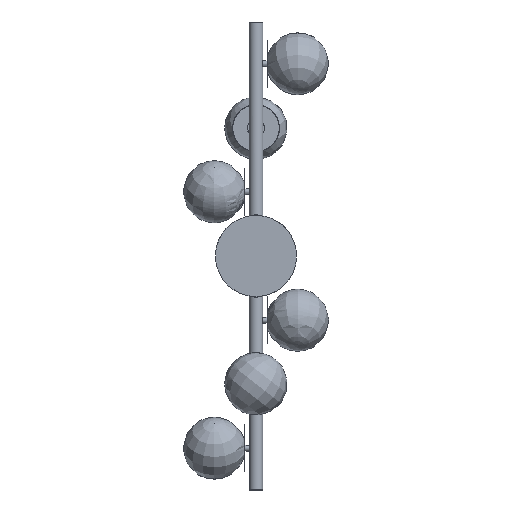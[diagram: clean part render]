
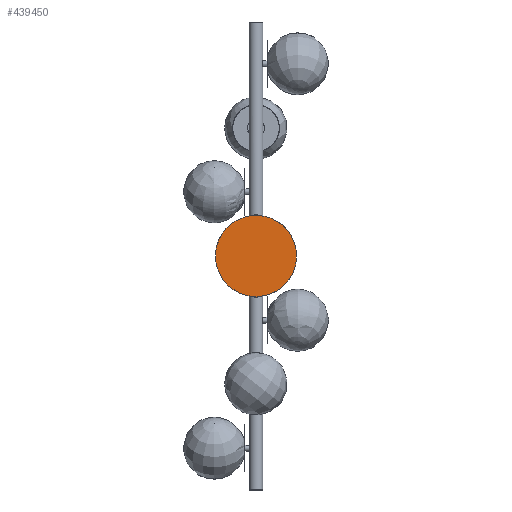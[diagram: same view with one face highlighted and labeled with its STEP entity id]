
A CAD part, front view. The second image highlights one B-rep face of the part: STEP entity #439450.
In plain terms, the highlighted free-form (B-spline) face has degree [1, 1] with [2, 2] control points.
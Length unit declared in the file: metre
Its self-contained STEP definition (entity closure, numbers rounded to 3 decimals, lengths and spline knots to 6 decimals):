
#439390 = CARTESIAN_POINT ('', (0., -2.5, -6.5));
#439391 = VERTEX_POINT ('', #439390);
#439397 = CARTESIAN_POINT ('', (0., -2.5, -6.5));
#439398 = CARTESIAN_POINT ('', (-6.5, -2.5, -6.5));
#439399 = CARTESIAN_POINT ('', (-6.5, -2.5, 0.));
#439400 = CARTESIAN_POINT ('', (-6.5, -2.5, 6.5));
#439401 = CARTESIAN_POINT ('', (0., -2.5, 6.5));
#439402 = CARTESIAN_POINT ('', (6.5, -2.5, 6.5));
#439403 = CARTESIAN_POINT ('', (6.5, -2.5, 0.));
#439404 = CARTESIAN_POINT ('', (6.5, -2.5, -6.5));
#439405 = CARTESIAN_POINT ('', (0., -2.5, -6.5));
#439406 = (
   BOUNDED_CURVE ()
   B_SPLINE_CURVE (2, (#439397, #439398, #439399, #439400, #439401, #439402, #439403, #439404, #439405), .UNSPECIFIED., .T., .U.)
   B_SPLINE_CURVE_WITH_KNOTS ((3, 2, 2, 2, 3), (0., 90., 180., 270., 360.), .UNSPECIFIED.)
   CURVE ()
   GEOMETRIC_REPRESENTATION_ITEM ()
   RATIONAL_B_SPLINE_CURVE ((1., 0.707, 1., 0.707, 1., 0.707, 1., 0.707, 1.))
   REPRESENTATION_ITEM ('')
);
#439407 = EDGE_CURVE ('', #439391, #439391, #439406, .T.);
#439442 = ORIENTED_EDGE ('', *, *, #439407, .F.);
#439443 = EDGE_LOOP ('', (#439442));
#439444 = FACE_OUTER_BOUND ('', #439443, .T.);
#439445 = CARTESIAN_POINT ('', (6.501, -2.5, -6.501));
#439446 = CARTESIAN_POINT ('', (-6.501, -2.5, -6.501));
#439447 = CARTESIAN_POINT ('', (6.501, -2.5, 6.501));
#439448 = CARTESIAN_POINT ('', (-6.501, -2.5, 6.501));
#439449 = B_SPLINE_SURFACE_WITH_KNOTS ('', 1, 1, ((#439445, #439446), (#439447, #439448)), .UNSPECIFIED., .F., .F., .U., (2, 2), (2, 2), (-6.501, 6.501), (-6.501, 6.501), .UNSPECIFIED.);
#439450 = ADVANCED_FACE ('', (#439444), #439449, .T.);
